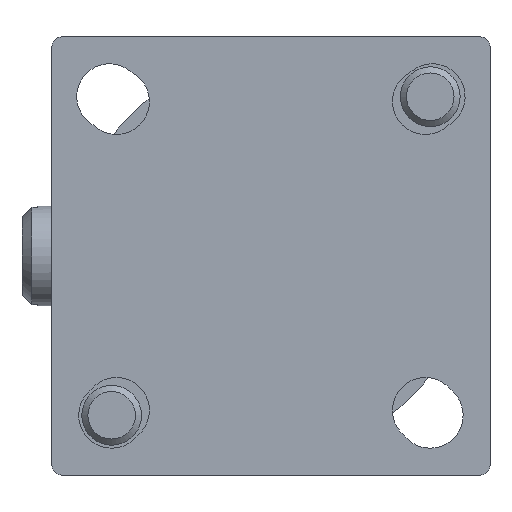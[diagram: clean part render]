
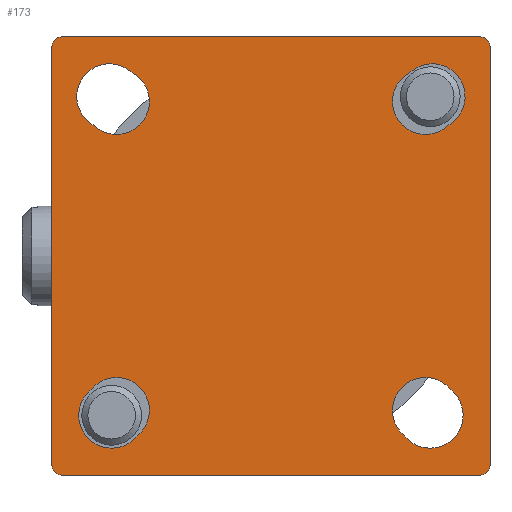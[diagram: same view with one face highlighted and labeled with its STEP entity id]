
A CAD part, front view. The second image highlights one B-rep face of the part: STEP entity #173.
In plain terms, the highlighted planar face has unit normal (0, -1, 0).
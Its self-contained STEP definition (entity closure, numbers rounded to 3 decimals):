
#173 = ADVANCED_FACE( '', ( #452, #453, #454, #455, #456 ), #457, .F. );
#452 = FACE_BOUND( '', #1320, .T. );
#453 = FACE_BOUND( '', #1321, .T. );
#454 = FACE_BOUND( '', #1322, .T. );
#455 = FACE_BOUND( '', #1323, .T. );
#456 = FACE_OUTER_BOUND( '', #1324, .T. );
#457 = PLANE( '', #1325 );
#1320 = EDGE_LOOP( '', ( #2104, #2105 ) );
#1321 = EDGE_LOOP( '', ( #2106, #2107 ) );
#1322 = EDGE_LOOP( '', ( #2108, #2109 ) );
#1323 = EDGE_LOOP( '', ( #2110, #2111 ) );
#1324 = EDGE_LOOP( '', ( #2112, #2113, #2114, #2115, #2116, #2117, #2118, #2119 ) );
#1325 = AXIS2_PLACEMENT_3D( '', #2120, #2121, #2122 );
#2104 = ORIENTED_EDGE( '', *, *, #2718, .T. );
#2105 = ORIENTED_EDGE( '', *, *, #2721, .T. );
#2106 = ORIENTED_EDGE( '', *, *, #2724, .T. );
#2107 = ORIENTED_EDGE( '', *, *, #2727, .T. );
#2108 = ORIENTED_EDGE( '', *, *, #2730, .T. );
#2109 = ORIENTED_EDGE( '', *, *, #2733, .T. );
#2110 = ORIENTED_EDGE( '', *, *, #2736, .T. );
#2111 = ORIENTED_EDGE( '', *, *, #2739, .T. );
#2112 = ORIENTED_EDGE( '', *, *, #2825, .F. );
#2113 = ORIENTED_EDGE( '', *, *, #2610, .T. );
#2114 = ORIENTED_EDGE( '', *, *, #2826, .F. );
#2115 = ORIENTED_EDGE( '', *, *, #2690, .T. );
#2116 = ORIENTED_EDGE( '', *, *, #2827, .F. );
#2117 = ORIENTED_EDGE( '', *, *, #2642, .T. );
#2118 = ORIENTED_EDGE( '', *, *, #2828, .F. );
#2119 = ORIENTED_EDGE( '', *, *, #2829, .T. );
#2120 = CARTESIAN_POINT( '', ( 0., 0., 0. ) );
#2121 = DIRECTION( '', ( 0., 1., 0. ) );
#2122 = DIRECTION( '', ( 0., 0., 1. ) );
#2610 = EDGE_CURVE( '', #2980, #2981, #2982, .F. );
#2642 = EDGE_CURVE( '', #3032, #3033, #3034, .F. );
#2690 = EDGE_CURVE( '', #3110, #3111, #3112, .F. );
#2718 = EDGE_CURVE( '', #3159, #3157, #3160, .T. );
#2721 = EDGE_CURVE( '', #3157, #3159, #3163, .T. );
#2724 = EDGE_CURVE( '', #3169, #3167, #3170, .T. );
#2727 = EDGE_CURVE( '', #3167, #3169, #3173, .T. );
#2730 = EDGE_CURVE( '', #3179, #3177, #3180, .T. );
#2733 = EDGE_CURVE( '', #3177, #3179, #3183, .T. );
#2736 = EDGE_CURVE( '', #3189, #3187, #3190, .T. );
#2739 = EDGE_CURVE( '', #3187, #3189, #3193, .T. );
#2825 = EDGE_CURVE( '', #2980, #3341, #3342, .T. );
#2826 = EDGE_CURVE( '', #3110, #2981, #3343, .T. );
#2827 = EDGE_CURVE( '', #3032, #3111, #3344, .T. );
#2828 = EDGE_CURVE( '', #3345, #3033, #3346, .T. );
#2829 = EDGE_CURVE( '', #3345, #3341, #3347, .F. );
#2980 = VERTEX_POINT( '', #3584 );
#2981 = VERTEX_POINT( '', #3585 );
#2982 = CIRCLE( '', #3586, 0.5 );
#3032 = VERTEX_POINT( '', #3675 );
#3033 = VERTEX_POINT( '', #3676 );
#3034 = CIRCLE( '', #3677, 0.5 );
#3110 = VERTEX_POINT( '', #3796 );
#3111 = VERTEX_POINT( '', #3797 );
#3112 = CIRCLE( '', #3798, 0.5 );
#3157 = VERTEX_POINT( '', #3862 );
#3159 = VERTEX_POINT( '', #3865 );
#3160 = CIRCLE( '', #3866, 1.65 );
#3163 = CIRCLE( '', #3870, 1.65 );
#3167 = VERTEX_POINT( '', #3874 );
#3169 = VERTEX_POINT( '', #3877 );
#3170 = CIRCLE( '', #3878, 1.65 );
#3173 = CIRCLE( '', #3882, 1.65 );
#3177 = VERTEX_POINT( '', #3886 );
#3179 = VERTEX_POINT( '', #3889 );
#3180 = CIRCLE( '', #3890, 1.65 );
#3183 = CIRCLE( '', #3894, 1.65 );
#3187 = VERTEX_POINT( '', #3898 );
#3189 = VERTEX_POINT( '', #3901 );
#3190 = CIRCLE( '', #3902, 1.65 );
#3193 = CIRCLE( '', #3906, 1.65 );
#3341 = VERTEX_POINT( '', #4206 );
#3342 = LINE( '', #4207, #4208 );
#3343 = LINE( '', #4209, #4210 );
#3344 = LINE( '', #4211, #4212 );
#3345 = VERTEX_POINT( '', #4213 );
#3346 = LINE( '', #4214, #4215 );
#3347 = CIRCLE( '', #4216, 0.5 );
#3584 = CARTESIAN_POINT( '', ( 0., 0., 0.5 ) );
#3585 = CARTESIAN_POINT( '', ( 0.5, 0., 0. ) );
#3586 = AXIS2_PLACEMENT_3D( '', #4461, #4462, #4463 );
#3675 = CARTESIAN_POINT( '', ( 22., 0., 21.5 ) );
#3676 = CARTESIAN_POINT( '', ( 21.5, 0., 22. ) );
#3677 = AXIS2_PLACEMENT_3D( '', #4522, #4523, #4524 );
#3796 = CARTESIAN_POINT( '', ( 21.5, 0., 0. ) );
#3797 = CARTESIAN_POINT( '', ( 22., 0., 0.5 ) );
#3798 = AXIS2_PLACEMENT_3D( '', #4623, #4624, #4625 );
#3862 = CARTESIAN_POINT( '', ( 4.026, 0., 20.206 ) );
#3865 = CARTESIAN_POINT( '', ( 2.124, 0., 17.544 ) );
#3866 = AXIS2_PLACEMENT_3D( '', #4673, #4674, #4675 );
#3870 = AXIS2_PLACEMENT_3D( '', #4680, #4681, #4682 );
#3874 = CARTESIAN_POINT( '', ( 20.035, 0., 4.285 ) );
#3877 = CARTESIAN_POINT( '', ( 17.715, 0., 1.965 ) );
#3878 = AXIS2_PLACEMENT_3D( '', #4687, #4688, #4689 );
#3882 = AXIS2_PLACEMENT_3D( '', #4694, #4695, #4696 );
#3886 = CARTESIAN_POINT( '', ( 1.965, 0., 4.285 ) );
#3889 = CARTESIAN_POINT( '', ( 4.285, 0., 1.965 ) );
#3890 = AXIS2_PLACEMENT_3D( '', #4701, #4702, #4703 );
#3894 = AXIS2_PLACEMENT_3D( '', #4708, #4709, #4710 );
#3898 = CARTESIAN_POINT( '', ( 19.876, 0., 17.544 ) );
#3901 = CARTESIAN_POINT( '', ( 17.974, 0., 20.206 ) );
#3902 = AXIS2_PLACEMENT_3D( '', #4715, #4716, #4717 );
#3906 = AXIS2_PLACEMENT_3D( '', #4722, #4723, #4724 );
#4206 = CARTESIAN_POINT( '', ( 0., 0., 21.5 ) );
#4207 = CARTESIAN_POINT( '', ( 0., 0., 0. ) );
#4208 = VECTOR( '', #4850, 1000. );
#4209 = CARTESIAN_POINT( '', ( 22., 0., 0. ) );
#4210 = VECTOR( '', #4851, 1000. );
#4211 = CARTESIAN_POINT( '', ( 22., 0., 22. ) );
#4212 = VECTOR( '', #4852, 1000. );
#4213 = CARTESIAN_POINT( '', ( 0.5, 0., 22. ) );
#4214 = CARTESIAN_POINT( '', ( 0., 0., 22. ) );
#4215 = VECTOR( '', #4853, 1000. );
#4216 = AXIS2_PLACEMENT_3D( '', #4854, #4855, #4856 );
#4461 = CARTESIAN_POINT( '', ( 0.5, 0., 0.5 ) );
#4462 = DIRECTION( '', ( 0., 1., 0. ) );
#4463 = DIRECTION( '', ( 0., 0., 1. ) );
#4522 = CARTESIAN_POINT( '', ( 21.5, 0., 21.5 ) );
#4523 = DIRECTION( '', ( 0., 1., 0. ) );
#4524 = DIRECTION( '', ( 0., 0., 1. ) );
#4623 = CARTESIAN_POINT( '', ( 21.5, 0., 0.5 ) );
#4624 = DIRECTION( '', ( 0., 1., 0. ) );
#4625 = DIRECTION( '', ( 0., 0., 1. ) );
#4673 = CARTESIAN_POINT( '', ( 2.9, 0., 19. ) );
#4674 = DIRECTION( '', ( 0., 1., 0. ) );
#4675 = DIRECTION( '', ( 0., 0., -1. ) );
#4680 = CARTESIAN_POINT( '', ( 3.25, 0., 18.75 ) );
#4681 = DIRECTION( '', ( 0., 1., 0. ) );
#4682 = DIRECTION( '', ( 0., 0., -1. ) );
#4687 = CARTESIAN_POINT( '', ( 18.75, 0., 3.25 ) );
#4688 = DIRECTION( '', ( 0., 1., 0. ) );
#4689 = DIRECTION( '', ( 1., 0., 0. ) );
#4694 = CARTESIAN_POINT( '', ( 19., 0., 3. ) );
#4695 = DIRECTION( '', ( 0., 1., 0. ) );
#4696 = DIRECTION( '', ( 1., 0., 0. ) );
#4701 = CARTESIAN_POINT( '', ( 3., 0., 3. ) );
#4702 = DIRECTION( '', ( 0., 1., 0. ) );
#4703 = DIRECTION( '', ( 1., 0., 0. ) );
#4708 = CARTESIAN_POINT( '', ( 3.25, 0., 3.25 ) );
#4709 = DIRECTION( '', ( 0., 1., 0. ) );
#4710 = DIRECTION( '', ( 1., 0., 0. ) );
#4715 = CARTESIAN_POINT( '', ( 19.1, 0., 19. ) );
#4716 = DIRECTION( '', ( 0., 1., 0. ) );
#4717 = DIRECTION( '', ( 0., 0., -1. ) );
#4722 = CARTESIAN_POINT( '', ( 18.75, 0., 18.75 ) );
#4723 = DIRECTION( '', ( 0., 1., 0. ) );
#4724 = DIRECTION( '', ( 0., 0., -1. ) );
#4850 = DIRECTION( '', ( 0., 0., 1. ) );
#4851 = DIRECTION( '', ( -1., 0., 0. ) );
#4852 = DIRECTION( '', ( 0., 0., -1. ) );
#4853 = DIRECTION( '', ( 1., 0., 0. ) );
#4854 = CARTESIAN_POINT( '', ( 0.5, 0., 21.5 ) );
#4855 = DIRECTION( '', ( 0., 1., 0. ) );
#4856 = DIRECTION( '', ( 0., 0., 1. ) );
